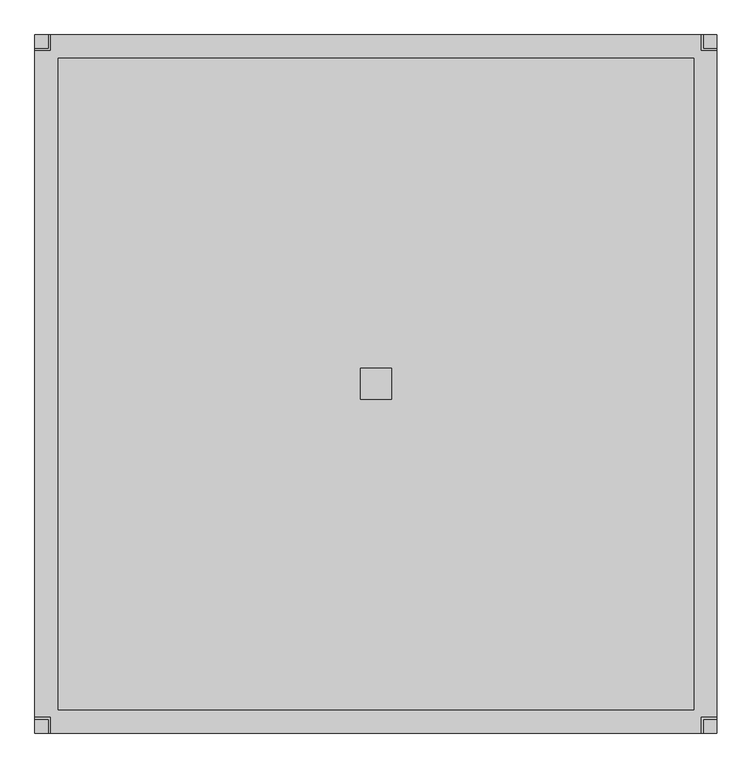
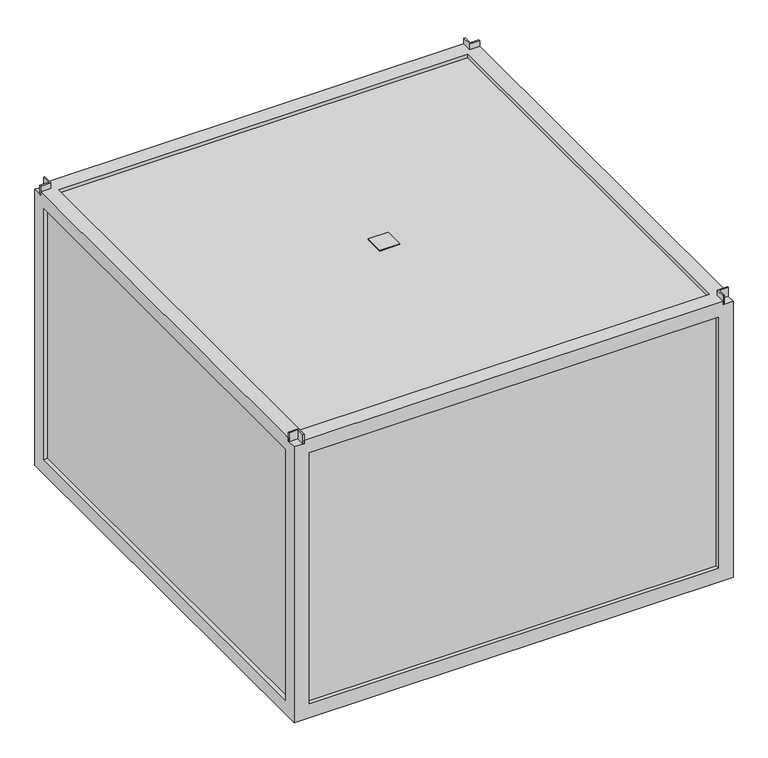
"""IFC4 building model written with IfcOpenShell, lengths in millimetres: proxy geometry, KORF_Вентилятор_UTR_WRH : UTR 90-50 WRH 45.4D."""

from ifc_helpers import new_model, si_unit, frame, origin, place, context, project, spatial, polyline, outline, extrude, faceted_brep, source, transform, mapped, element, save


def mechanical_equipment_54920270(model_context):
    return source(origin(), model_context, "Body", "SolidModel", [
        extrude(outline(polyline([(525.0, -25.0), (525.0, 25.0), (575.0, 25.0), (575.0, -25.0), (525.0, -25.0)])), frame((0.0, 0.0, 370.0), z_axis=(0.0, 0.0, 1.0), x_axis=(1.0, 0.0, 0.0)), (0.0, 0.0, 1.0), 2.0),
        extrude(outline(polyline([(25.0, 537.5), (0.0, 537.5), (0.0, 540.5), (22.0, 540.5), (22.0, 562.5), (25.0, 562.5), (25.0, 537.5)])), frame((0.0, 0.0, 361.0), z_axis=(0.0, 0.0, 1.0), x_axis=(1.0, 0.0, 0.0)), (0.0, 0.0, 1.0), 24.0),
        extrude(outline(polyline([(1075.0, 537.5), (1075.0, 562.5), (1078.0, 562.5), (1078.0, 540.5), (1100.0, 540.5), (1100.0, 537.5), (1075.0, 537.5)])), frame((0.0, 0.0, 361.0), z_axis=(0.0, 0.0, 1.0), x_axis=(1.0, 0.0, 0.0)), (0.0, 0.0, 1.0), 24.0),
        extrude(outline(polyline([(25.0, -537.5), (25.0, -562.5), (22.0, -562.5), (22.0, -540.5), (0.0, -540.5), (0.0, -537.5), (25.0, -537.5)])), frame((0.0, 0.0, 361.0), z_axis=(0.0, 0.0, 1.0), x_axis=(1.0, 0.0, 0.0)), (0.0, 0.0, 1.0), 24.0),
        extrude(outline(polyline([(1075.0, -537.5), (1100.0, -537.5), (1100.0, -540.5), (1078.0, -540.5), (1078.0, -562.5), (1075.0, -562.5), (1075.0, -537.5)])), frame((0.0, 0.0, 361.0), z_axis=(0.0, 0.0, 1.0), x_axis=(1.0, 0.0, 0.0)), (0.0, 0.0, 1.0), 24.0),
        extrude(outline(polyline([(1090.0, 552.5), (1090.0, -552.5), (10.0, -552.5), (10.0, 552.5), (1090.0, 552.5)])), frame((0.0, 0.0, -360.0), z_axis=(0.0, 0.0, 1.0), x_axis=(1.0, 0.0, 0.0)), (0.0, 0.0, 1.0), 720.0),
        faceted_brep([(0.0, -562.4999993, -369.9999993), (1100.0, -562.4999993, -369.9999993), (1099.9999993, -562.4999993, 361.0), (1075.0, -562.4999993, 361.0), (1075.0, -562.4999993, 370.0), (25.0, -562.4999993, 369.9999993), (25.0, -562.4999993, 361.0), (0.0, -562.4999993, 361.0), (37.5, -562.4999993, -332.4999993), (37.5, -562.4999993, 332.5), (1062.4999993, -562.4999993, 332.5), (1062.4999993, -562.4999993, -332.4999993), (10.000001, -552.4999993, -359.9999993), (10.000001, -552.4999993, 359.9999993), (1089.9999993, -552.4999993, 359.999999), (1089.999999, -552.4999993, -359.9999993), (37.5, -552.4999993, 332.5), (37.5, -552.4999993, -332.4999993), (1062.4999993, -552.4999993, -332.4999993), (1062.4999993, -552.4999993, 332.5), (0.0, -524.9999993, 332.4999993), (10.000001, -524.9999993, 332.4999993), (10.000001, -524.9999993, -332.4999993), (0.0, -524.9999993, -332.4999993), (0.0, 562.4999993, -369.9999993), (1100.0, 562.5, -369.9999993), (1062.5, -525.0, -369.9999993), (1062.5, 525.0, -369.9999993), (37.5, 525.0, -369.9999993), (37.5, -525.0, -369.9999993), (10.000001, 552.4999993, -359.9999993), (1089.999999, 552.499999, -359.9999993), (1062.5, 525.0, -359.9999993), (1062.5, -525.0, -359.9999993), (37.5, -525.0, -359.9999993), (37.5, 525.0, -359.9999993), (10.000001, 524.9999993, -332.4999993), (0.0, 524.9999993, -332.4999993), (0.0, 562.4999993, 361.0), (25.0, 562.4999993, 361.0), (25.0, 562.4999993, 369.9999993), (1075.0, 562.4999993, 370.0), (1075.0, 562.4999993, 361.0), (1099.9999993, 562.4999993, 361.0), (37.5, 562.4999993, 332.5), (37.5, 562.4999993, -332.4999993), (1062.4999993, 562.4999993, -332.4999993), (1062.4999993, 562.4999993, 332.5), (10.000001, 552.4999993, 359.9999993), (1089.9999993, 552.4999993, 359.999999), (37.5, 552.4999993, -332.4999993), (37.5, 552.4999993, 332.5), (1062.4999993, 552.4999993, 332.5), (1062.4999993, 552.4999993, -332.4999993), (10.000001, 524.9999993, 332.4999993), (0.0, 524.9999993, 332.4999993), (0.0, -537.5, 361.0), (0.0, -537.5, 369.9999993), (0.0, 537.5, 369.9999993), (0.0, 537.5, 361.0), (1075.0, -537.5, 369.9999993), (1099.9999993, -537.5, 369.9999993), (1099.9999993, 537.5, 369.9999993), (1075.0, 537.5, 369.9999993), (25.0, 537.5, 369.9999993), (25.0, -537.5, 369.9999993), (1062.4999993, 524.9999993, 369.9999993), (1062.4999993, -524.9999993, 369.9999993), (37.5000007, -524.9999993, 369.9999993), (37.5, 524.9999993, 369.9999993), (37.5, -524.9999993, 359.9999993), (37.5, 524.9999993, 359.9999993), (1062.4999993, -524.9999993, 359.9999993), (1062.4999993, 524.9999993, 359.9999993), (1099.9999993, 537.5, 361.0), (1099.9999993, -537.5, 361.0), (1099.9999993, -525.0, -332.5), (1099.9999993, -525.0, 332.5), (1099.9999993, 525.0, 332.5), (1099.9999993, 525.0, -332.5), (1089.9999993, -525.0, 332.5), (1089.9999993, -525.0, -332.5), (1089.9999993, 525.0, -332.4999993), (1089.9999993, 525.0, 332.5), (25.0, 537.5, 361.0), (1075.0, 537.5, 361.0), (1075.0, -537.5, 361.0), (25.0, -537.5, 361.0)], [[[0, 1, 2, 3, 4, 5, 6, 7], [8, 9, 10, 11]], [[12, 13, 14, 15], [16, 17, 18, 19]], [[20, 21, 22, 23]], [[0, 24, 25, 1], [26, 27, 28, 29]], [[30, 12, 15, 31], [32, 33, 34, 35]], [[23, 22, 36, 37]], [[25, 24, 38, 39, 40, 41, 42, 43], [44, 45, 46, 47]], [[48, 30, 31, 49], [50, 51, 52, 53]], [[37, 36, 54, 55]], [[24, 0, 7, 56, 57, 58, 59, 38], [20, 23, 37, 55]], [[5, 4, 60, 61, 62, 63, 41, 40, 64, 58, 57, 65], [66, 67, 68, 69]], [[35, 34, 29, 28]], [[69, 68, 70, 71]], [[16, 9, 8, 17]], [[44, 51, 50, 45]], [[13, 48, 49, 14], [72, 73, 71, 70]], [[12, 30, 48, 13], [22, 21, 54, 36]], [[21, 20, 55, 54]], [[1, 25, 43, 74, 62, 61, 75, 2], [76, 77, 78, 79]], [[14, 49, 31, 15], [80, 81, 82, 83]], [[66, 73, 72, 67]], [[67, 72, 70, 68]], [[9, 16, 19, 10]], [[51, 44, 47, 52]], [[80, 83, 78, 77]], [[73, 66, 69, 71]], [[32, 27, 26, 33]], [[33, 26, 29, 34]], [[27, 32, 35, 28]], [[17, 8, 11, 18]], [[45, 50, 53, 46]], [[76, 79, 82, 81]], [[77, 76, 81, 80]], [[79, 78, 83, 82]], [[11, 10, 19, 18]], [[47, 46, 53, 52]], [[59, 84, 39, 38]], [[42, 85, 74, 43]], [[75, 86, 3, 2]], [[87, 56, 7, 6]], [[84, 59, 58, 64]], [[39, 84, 64, 40]], [[85, 42, 41, 63]], [[74, 85, 63, 62]], [[86, 75, 61, 60]], [[3, 86, 60, 4]], [[56, 87, 65, 57]], [[87, 6, 5, 65]]]),
    ])


if __name__ == "__main__":
    model = new_model("IFC4")
    model_context = context("Model", 3, world=origin())
    ifc_project = project(units=[si_unit("LENGTHUNIT", "METRE", prefix="MILLI")], contexts=[model_context])
    site = spatial("IfcSite", under=ifc_project)
    building = spatial("IfcBuilding", under=site)
    placement = place(None, origin())
    mechanical_equipment_shape = mechanical_equipment_54920270(model_context)
    element("IfcBuildingElementProxy", 1, Name="KORF_Вентилятор_UTR_WRH : UTR 90-50 WRH 45.4D", ObjectType="KORF_Вентилятор_UTR_WRH : UTR 90-50 WRH 45.4D", at=placement, inside=building, context=model_context, shape_type="MappedRepresentation", body=[
        mapped(mechanical_equipment_shape, transform((0.0, 0.0, 0.0), x_axis=(1.0, 0.0, 0.0), y_axis=(0.0, 1.0, 0.0), z_axis=(0.0, 0.0, 1.0))),
    ])
    save(model, "model.ifc")
